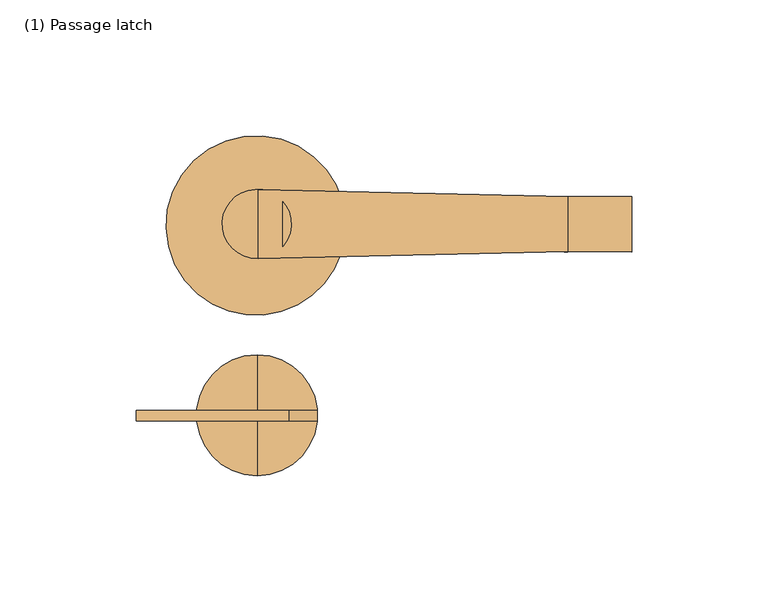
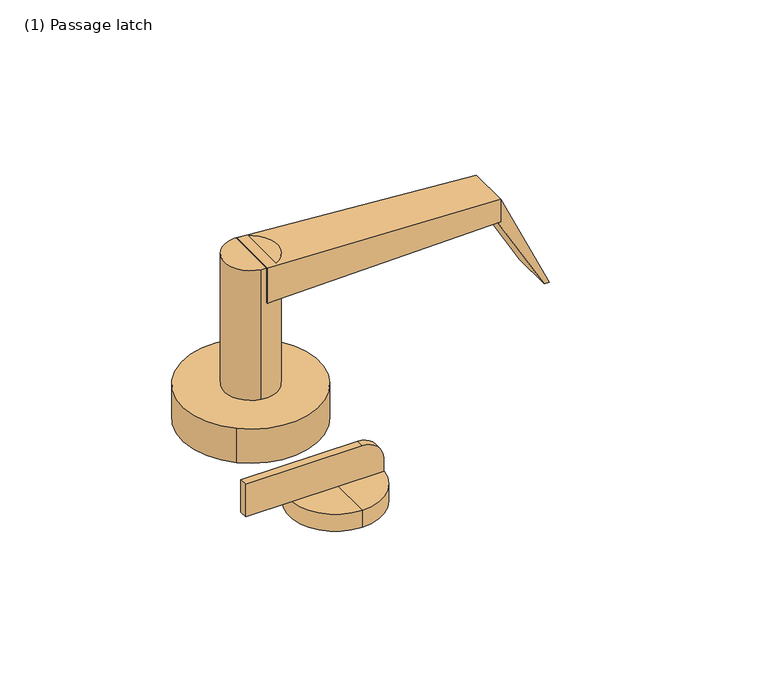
"""IFC4 building model written with IfcOpenShell, lengths in millimetres: door geometry, Door_Handle-Teknion-FHHSL-Schlage L Series(Child) : (1) Passage latch."""

from ifc_helpers import new_model, si_unit, point, frame, frame_2d, origin, origin_with_axes, place, context, project, spatial, polyline, circle_curve, trimmed, segment, composite_curve, outline, extrude, source, transform, mapped, element, save
from ifc_brep_helpers import plane_surface, cylinder_surface, spline_surface, advanced_brep


def door_1_passage_latch_3c9db224(model_context):
    return source(origin(), model_context, "Body", "SolidModel", [
        advanced_brep(
        [(113.0826159, 9.8661661, 77.089), (113.0826159, -10.4783486, 77.089), (113.0826159, -10.4783486, 65.659), (113.0826159, 9.8661661, 65.659), (-0.79375, 12.3783123, 83.439), (-0.79375, 12.378509, 65.659), (-0.79375, -13.0089229, 65.659), (-0.79375, -13.0118705, 83.439)],
        [
            (0, 1),
            (1, 2),
            (2, 3),
            (3, 0),
            (4, 5),
            (5, 6),
            (6, 7),
            (7, 4),
            (4, 0),
            (3, 5),
            (2, 6),
            (1, 7),
        ],
        [
            plane_surface(frame((113.0826159, -0.3060912, 71.374), z_axis=(1.0, 0.0, 0.0), x_axis=(0.0, 1.0, 0.0))),
            plane_surface(frame((-0.79375, -0.315993, 74.549), z_axis=(-1.0000000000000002, 0.0, 0.0), x_axis=(0.0, 1.1064247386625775e-05, -0.9999999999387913))),
            spline_surface(1, 1, [[(-0.79375, 12.3783123, 83.439), (-0.79375, 12.378509, 65.659)], [(113.0826159, 9.8661661, 77.089), (113.0826159, 9.8661661, 65.659)]], [2, 2], [2, 2], [0.0, 1.0], [0.0, 1.0]),
            plane_surface(frame((-0.79375, -0.315207, 65.659), z_axis=(0.0, 0.0, -1.0), x_axis=(0.0, -1.0, 0.0))),
            spline_surface(1, 1, [[(-0.79375, -13.0089229, 65.659), (-0.79375, -13.0118705, 83.439)], [(113.0826159, -10.4783486, 65.659), (113.0826159, -10.4783486, 77.089)]], [2, 2], [2, 2], [0.0, 1.0], [0.0, 1.0]),
            plane_surface(frame((-0.79375, -0.3167791, 83.439), z_axis=(0.05567573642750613, 0.0, 0.9984489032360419), x_axis=(0.0, 1.0, 0.0))),
        ],
        [
            (0, [[1, 2, 3, 4]]),
            (1, [[5, 6, 7, 8]]),
            (2, [[9, -4, 10, -5]]),
            (3, [[-10, -3, 11, -6]]),
            (4, [[-11, -2, 12, -7]]),
            (5, [[-12, -1, -9, -8]]),
        ],
    ),
        extrude(outline(composite_curve([segment(trimmed(circle_curve(frame_2d((-1.3064074, -0.1984375)), 12.7), [point((-3.427265, -12.7200973))], [point((0.8144502, 12.3232223))], False, "CARTESIAN"), True, "CONTINUOUS"), segment(trimmed(circle_curve(frame_2d((-1.3064074, -0.1984375)), 12.7), [point((0.8144502, 12.3232223))], [point((-3.427265, -12.7200973))], False, "CARTESIAN"), True, "CONTINUOUS")], self_intersect=False)), frame((0.0, 0.0, 17.399), z_axis=(0.0, 0.0, 1.0), x_axis=(1.0, 0.0, 0.0)), (0.0, 0.0, 1.0), 66.04),
        extrude(outline(composite_curve([segment(trimmed(circle_curve(frame_2d((-1.6178614, -0.7745191)), 33.02), [point((-22.9508261, -25.9781898))], [point((19.7151032, 24.4291516))], False, "CARTESIAN"), True, "CONTINUOUS"), segment(trimmed(circle_curve(frame_2d((-1.6178614, -0.7745191)), 33.02), [point((19.7151032, 24.4291516))], [point((-22.9508261, -25.9781898))], False, "CARTESIAN"), True, "CONTINUOUS")], self_intersect=False)), origin_with_axes(), (0.0, 0.0, 1.0), 17.399),
        extrude(outline(polyline([(77.089, 113.0826159), (65.659, 113.0826159), (65.659, 111.7545147), (26.5862634, 134.0924288), (26.5862634, 136.6324288), (77.089, 113.0826159)])), frame((0.0, -10.4783486, 0.0), z_axis=(0.0, 1.0, 0.0), x_axis=(0.0, 0.0, 1.0)), (0.0, 0.0, 1.0), 20.32),
        extrude(outline(composite_curve([segment(polyline([(25.146, 10.6467926), (25.146, -45.6833325), (8.636, -45.6833325), (8.636, 20.8690339), (15.3233, 20.8690339)]), True, "CONTINUOUS"), segment(trimmed(circle_curve(frame_2d((14.9632029, 10.6925033)), 10.1828997), [point((15.3233, 20.8690339))], [point((25.146, 10.6467926))], False, "CARTESIAN"), True, "CONTINUOUS")], self_intersect=False)), frame((0.0, -72.6889197, 0.0), z_axis=(0.0, 1.0, 0.0), x_axis=(0.0, 0.0, 1.0)), (0.0, 0.0, 1.0), 3.81),
        advanced_brep(
        [(-1.190625, -92.8715961, 8.636), (-1.190625, -70.6303498, 8.636), (-1.190625, -48.3891034, 8.636), (-1.190625, -92.8715961, 0.0), (-1.190625, -48.3891034, 0.0), (-1.190625, -70.6303498, 0.0)],
        [
            (0, 1),
            (1, 2),
            (2, 0, circle_curve(frame((-1.190625, -70.6303498, 8.636), z_axis=(0.0, 0.0, 1.0), x_axis=(0.0, 1.0, 0.0)), 22.2412463)),
            (0, 2, circle_curve(frame((-1.190625, -70.6303498, 8.636), z_axis=(0.0, 0.0, 1.0), x_axis=(0.0, 1.0, 0.0)), 22.2412463)),
            (3, 0),
            (2, 4),
            (4, 3, circle_curve(frame((-1.190625, -70.6303498, 0.0), z_axis=(0.0, 0.0, 1.0), x_axis=(0.0, 1.0, 0.0)), 22.2412463)),
            (3, 4, circle_curve(frame((-1.190625, -70.6303498, 0.0), z_axis=(0.0, 0.0, 1.0), x_axis=(0.0, 1.0, 0.0)), 22.2412463)),
            (5, 3),
            (4, 5),
        ],
        [
            plane_surface(frame((-1.190625, -70.6303498, 8.636), z_axis=(0.0, 0.0, 1.0), x_axis=(0.0, 1.0, 0.0))),
            cylinder_surface(frame((-1.190625, -70.6303498, 76.2), z_axis=(0.0, 0.0, -1.0), x_axis=(0.0, 1.0, 0.0)), 22.2412463),
            plane_surface(frame((-1.190625, -70.6303498, 0.0), z_axis=(0.0, 0.0, -1.0), x_axis=(0.0, 1.0, 0.0))),
        ],
        [
            (0, [[1, 2, 3]]),
            (0, [[-2, -1, 4]]),
            (1, [[5, -3, 6, 7]]),
            (1, [[-6, -4, -5, 8]]),
            (2, [[9, -7, 10]]),
            (2, [[-10, -8, -9]]),
        ],
    ),
    ])


if __name__ == "__main__":
    model = new_model("IFC4")
    model_context = context("Model", 3, world=origin())
    ifc_project = project(units=[si_unit("LENGTHUNIT", "METRE", prefix="MILLI")], contexts=[model_context])
    site = spatial("IfcSite", under=ifc_project)
    building = spatial("IfcBuilding", under=site)
    placement = place(None, origin())
    door_1_passage_latch_shape = door_1_passage_latch_3c9db224(model_context)
    element("IfcDoor", 1, ObjectType="Door_Handle-Teknion-FHHSL-Schlage L Series(Child) : (1) Passage latch", at=placement, inside=building, context=model_context, shape_type="MappedRepresentation", body=[
        mapped(door_1_passage_latch_shape, transform((0.0, 0.0, 0.0), x_axis=(1.0, 0.0, 0.0), y_axis=(0.0, 1.0, 0.0), z_axis=(0.0, 0.0, 1.0))),
    ])
    save(model, "model.ifc")
